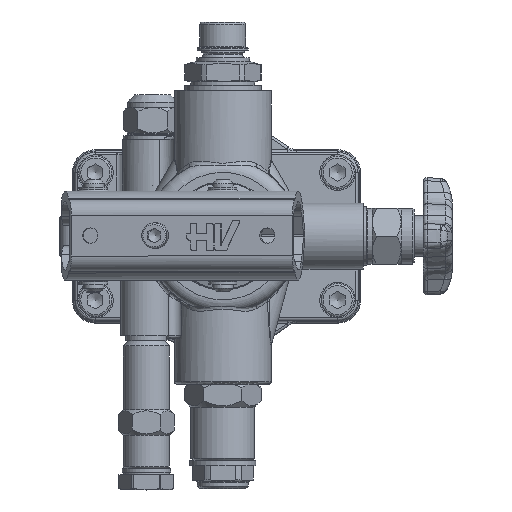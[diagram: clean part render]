
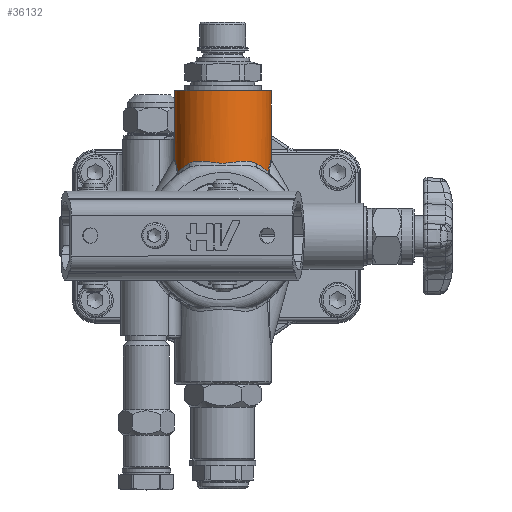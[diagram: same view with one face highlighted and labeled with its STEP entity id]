
A CAD part, top view. The second image highlights one B-rep face of the part: STEP entity #36132.
In plain terms, the highlighted cylindrical face has radius 19 mm (diameter 38 mm), a full revolution.
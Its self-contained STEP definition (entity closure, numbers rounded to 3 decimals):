
#33687=CARTESIAN_POINT('',(-10.797,28.425,52.571));
#33688=VERTEX_POINT('',#33687);
#33714=CARTESIAN_POINT('',(15.797,28.425,52.571));
#33715=VERTEX_POINT('',#33714);
#33723=CARTESIAN_POINT('',(15.797,28.425,52.571));
#33724=CARTESIAN_POINT('',(14.852,28.965,53.498));
#33725=CARTESIAN_POINT('',(12.63,29.567,55.267));
#33726=CARTESIAN_POINT('',(9.399,29.374,56.8));
#33727=CARTESIAN_POINT('',(6.694,28.984,57.571));
#33728=CARTESIAN_POINT('',(4.444,28.666,57.95));
#33729=CARTESIAN_POINT('',(2.319,28.562,58.04));
#33730=CARTESIAN_POINT('',(-0.497,28.771,57.842));
#33731=CARTESIAN_POINT('',(-3.757,29.341,57.106));
#33732=CARTESIAN_POINT('',(-7.303,29.545,55.421));
#33733=CARTESIAN_POINT('',(-9.572,29.044,53.724));
#33734=CARTESIAN_POINT('',(-10.561,28.56,52.803));
#33735=CARTESIAN_POINT('',(-10.797,28.425,52.571));
#33736=B_SPLINE_CURVE_WITH_KNOTS('',3,(#33723,#33724,#33725,#33726,#33727,#33728,#33729,#33730,#33731,#33732,#33733,#33734,#33735),.UNSPECIFIED.,.F.,.U.,(4,1,1,1,1,1,1,1,1,1,4),(-3.274,-2.806,-2.339,-2.105,-1.871,-1.579,-1.403,-0.935,-0.468,-0.117,0.),.UNSPECIFIED.);
#33737=EDGE_CURVE('',#33715,#33688,#33736,.T.);
#34788=CARTESIAN_POINT('',(-15.885,39.,34.203));
#34789=VERTEX_POINT('',#34788);
#34797=CARTESIAN_POINT('',(-8.49,39.,23.501));
#34798=VERTEX_POINT('',#34797);
#34799=CARTESIAN_POINT('',(2.5,39.,39.0));
#34800=DIRECTION('',(0.0,1.0,0.0));
#34801=DIRECTION('',(1.0,0.0,0.0));
#34802=AXIS2_PLACEMENT_3D('',#34799,#34800,#34801);
#34803=CIRCLE('',#34802,19.);
#34804=EDGE_CURVE('',#34798,#34789,#34803,.T.);
#34850=CARTESIAN_POINT('',(-5.958,38.,21.986));
#34851=VERTEX_POINT('',#34850);
#34859=CARTESIAN_POINT('',(-5.958,30.604,21.986));
#34860=VERTEX_POINT('',#34859);
#34861=CARTESIAN_POINT('',(-5.958,38.,21.986));
#34862=DIRECTION('',(0.0,-1.0,0.0));
#34863=VECTOR('',#34862,7.396);
#34864=LINE('',#34861,#34863);
#34865=EDGE_CURVE('',#34851,#34860,#34864,.T.);
#34903=CARTESIAN_POINT('',(-16.406,38.,37.108));
#34904=VERTEX_POINT('',#34903);
#34912=CARTESIAN_POINT('',(-15.885,39.,34.203));
#34913=CARTESIAN_POINT('',(-15.927,39.,34.367));
#34914=CARTESIAN_POINT('',(-15.975,38.984,34.557));
#34915=CARTESIAN_POINT('',(-16.196,38.794,35.528));
#34916=CARTESIAN_POINT('',(-16.324,38.408,36.301));
#34917=CARTESIAN_POINT('',(-16.405,38.003,37.103));
#34918=CARTESIAN_POINT('',(-16.405,38.001,37.105));
#34919=CARTESIAN_POINT('',(-16.406,38.,37.108));
#34920=B_SPLINE_CURVE_WITH_KNOTS('',3,(#34912,#34913,#34914,#34915,#34916,#34917,#34918,#34919),.UNSPECIFIED.,.F.,.U.,(4,2,2,4),(0.777,0.821,0.967,0.968),.UNSPECIFIED.);
#34921=EDGE_CURVE('',#34904,#34789,#34920,.F.);
#35376=CARTESIAN_POINT('',(-15.189,25.333,45.935));
#35377=VERTEX_POINT('',#35376);
#35394=CARTESIAN_POINT('',(-10.797,28.425,52.571));
#35395=CARTESIAN_POINT('',(-12.683,27.348,50.724));
#35396=CARTESIAN_POINT('',(-14.196,26.179,48.467));
#35397=CARTESIAN_POINT('',(-15.189,25.333,45.935));
#35398=B_SPLINE_CURVE_WITH_KNOTS('',3,(#35394,#35395,#35396,#35397),.UNSPECIFIED.,.F.,.U.,(4,4),(0.0,0.933),.UNSPECIFIED.);
#35399=EDGE_CURVE('',#33688,#35377,#35398,.T.);
#35857=CARTESIAN_POINT('',(20.237,25.292,45.812));
#35858=VERTEX_POINT('',#35857);
#35870=CARTESIAN_POINT('',(20.237,25.292,45.813));
#35871=CARTESIAN_POINT('',(19.242,26.144,48.403));
#35872=CARTESIAN_POINT('',(17.716,27.329,50.691));
#35873=CARTESIAN_POINT('',(15.797,28.425,52.571));
#35874=B_SPLINE_CURVE_WITH_KNOTS('',3,(#35870,#35871,#35872,#35873),.UNSPECIFIED.,.F.,.U.,(4,4),(9.304,10.254),.UNSPECIFIED.);
#35875=EDGE_CURVE('',#35858,#33715,#35874,.T.);
#35934=CARTESIAN_POINT('',(20.237,25.292,32.188));
#35935=VERTEX_POINT('',#35934);
#35947=CARTESIAN_POINT('',(-5.958,30.604,21.986));
#35948=CARTESIAN_POINT('',(-5.196,30.862,21.608));
#35949=CARTESIAN_POINT('',(-2.89,31.531,20.647));
#35950=CARTESIAN_POINT('',(1.286,32.137,19.81));
#35951=CARTESIAN_POINT('',(8.094,31.789,20.296));
#35952=CARTESIAN_POINT('',(14.065,29.597,23.341));
#35953=CARTESIAN_POINT('',(18.216,26.944,28.001));
#35954=CARTESIAN_POINT('',(19.69,25.76,30.766));
#35955=CARTESIAN_POINT('',(20.237,25.292,32.188));
#35956=B_SPLINE_CURVE_WITH_KNOTS('',3,(#35947,#35948,#35949,#35950,#35951,#35952,#35953,#35954,#35955),.UNSPECIFIED.,.F.,.U.,(4,1,1,1,1,1,4),(4.146,4.437,4.994,5.552,6.666,7.223,7.746),.UNSPECIFIED.);
#35957=EDGE_CURVE('',#34860,#35935,#35956,.T.);
#36067=CARTESIAN_POINT('',(2.5,0.0,39.0));
#36068=DIRECTION('',(0.0,1.0,0.0));
#36069=DIRECTION('',(1.0,0.0,0.0));
#36070=AXIS2_PLACEMENT_3D('',#36067,#36068,#36069);
#36071=CYLINDRICAL_SURFACE('',#36070,19.);
#36072=CARTESIAN_POINT('',(20.237,25.292,32.188));
#36073=CARTESIAN_POINT('',(20.379,26.061,32.558));
#36074=CARTESIAN_POINT('',(20.862,28.254,33.881));
#36075=CARTESIAN_POINT('',(21.514,30.155,36.86));
#36076=CARTESIAN_POINT('',(21.513,30.15,40.27));
#36077=CARTESIAN_POINT('',(21.192,29.22,42.634));
#36078=CARTESIAN_POINT('',(20.702,27.526,44.537));
#36079=CARTESIAN_POINT('',(20.379,26.061,45.442));
#36080=CARTESIAN_POINT('',(20.237,25.292,45.812));
#36081=B_SPLINE_CURVE_WITH_KNOTS('',3,(#36072,#36073,#36074,#36075,#36076,#36077,#36078,#36079,#36080),.UNSPECIFIED.,.F.,.U.,(4,1,1,1,1,1,4),(-1.838,-1.576,-1.05,-0.788,-0.525,-0.263,0.0),.UNSPECIFIED.);
#36082=EDGE_CURVE('',#35935,#35858,#36081,.T.);
#36083=ORIENTED_EDGE('',*,*,#36082,.F.);
#36084=ORIENTED_EDGE('',*,*,#35957,.F.);
#36085=ORIENTED_EDGE('',*,*,#34865,.F.);
#36086=CARTESIAN_POINT('',(-5.958,38.,21.986));
#36087=CARTESIAN_POINT('',(-5.96,38.001,21.988));
#36088=CARTESIAN_POINT('',(-5.963,38.003,21.989));
#36089=CARTESIAN_POINT('',(-6.684,38.408,22.348));
#36090=CARTESIAN_POINT('',(-7.361,38.794,22.741));
#36091=CARTESIAN_POINT('',(-8.191,38.984,23.292));
#36092=CARTESIAN_POINT('',(-8.353,39.,23.404));
#36093=CARTESIAN_POINT('',(-8.49,39.,23.501));
#36094=B_SPLINE_CURVE_WITH_KNOTS('',3,(#36086,#36087,#36088,#36089,#36090,#36091,#36092,#36093),.UNSPECIFIED.,.F.,.U.,(4,2,2,4),(-0.001,0.0,0.269,0.35),.UNSPECIFIED.);
#36095=EDGE_CURVE('',#34798,#34851,#36094,.F.);
#36096=ORIENTED_EDGE('',*,*,#36095,.F.);
#36097=ORIENTED_EDGE('',*,*,#34804,.T.);
#36098=ORIENTED_EDGE('',*,*,#34921,.F.);
#36099=CARTESIAN_POINT('',(-16.406,30.428,37.108));
#36100=VERTEX_POINT('',#36099);
#36101=CARTESIAN_POINT('',(-16.406,38.,37.108));
#36102=DIRECTION('',(0.0,-1.0,0.0));
#36103=VECTOR('',#36102,7.572);
#36104=LINE('',#36101,#36103);
#36105=EDGE_CURVE('',#34904,#36100,#36104,.T.);
#36106=ORIENTED_EDGE('',*,*,#36105,.T.);
#36107=CARTESIAN_POINT('',(-15.189,25.333,45.935));
#36108=CARTESIAN_POINT('',(-15.429,26.833,45.322));
#36109=CARTESIAN_POINT('',(-15.98,29.164,43.817));
#36110=CARTESIAN_POINT('',(-16.549,30.851,40.344));
#36111=CARTESIAN_POINT('',(-16.508,30.738,38.128));
#36112=CARTESIAN_POINT('',(-16.406,30.428,37.108));
#36113=B_SPLINE_CURVE_WITH_KNOTS('',3,(#36107,#36108,#36109,#36110,#36111,#36112),.UNSPECIFIED.,.F.,.U.,(4,1,1,4),(-1.152,-0.658,-0.329,0.0),.UNSPECIFIED.);
#36114=EDGE_CURVE('',#35377,#36100,#36113,.T.);
#36115=ORIENTED_EDGE('',*,*,#36114,.F.);
#36116=ORIENTED_EDGE('',*,*,#35399,.F.);
#36117=ORIENTED_EDGE('',*,*,#33737,.F.);
#36118=ORIENTED_EDGE('',*,*,#35875,.F.);
#36119=EDGE_LOOP('',(#36083,#36084,#36085,#36096,#36097,#36098,#36106,#36115,#36116,#36117,#36118));
#36120=FACE_OUTER_BOUND('',#36119,.T.);
#36121=CARTESIAN_POINT('',(-16.5,57.,39.));
#36122=VERTEX_POINT('',#36121);
#36123=CARTESIAN_POINT('',(2.5,57.,39.0));
#36124=DIRECTION('',(0.0,1.0,0.0));
#36125=DIRECTION('',(1.0,0.0,0.0));
#36126=AXIS2_PLACEMENT_3D('',#36123,#36124,#36125);
#36127=CIRCLE('',#36126,19.);
#36128=EDGE_CURVE('',#36122,#36122,#36127,.T.);
#36129=ORIENTED_EDGE('',*,*,#36128,.F.);
#36130=EDGE_LOOP('',(#36129));
#36131=FACE_BOUND('',#36130,.T.);
#36132=ADVANCED_FACE('',(#36120,#36131),#36071,.T.);
